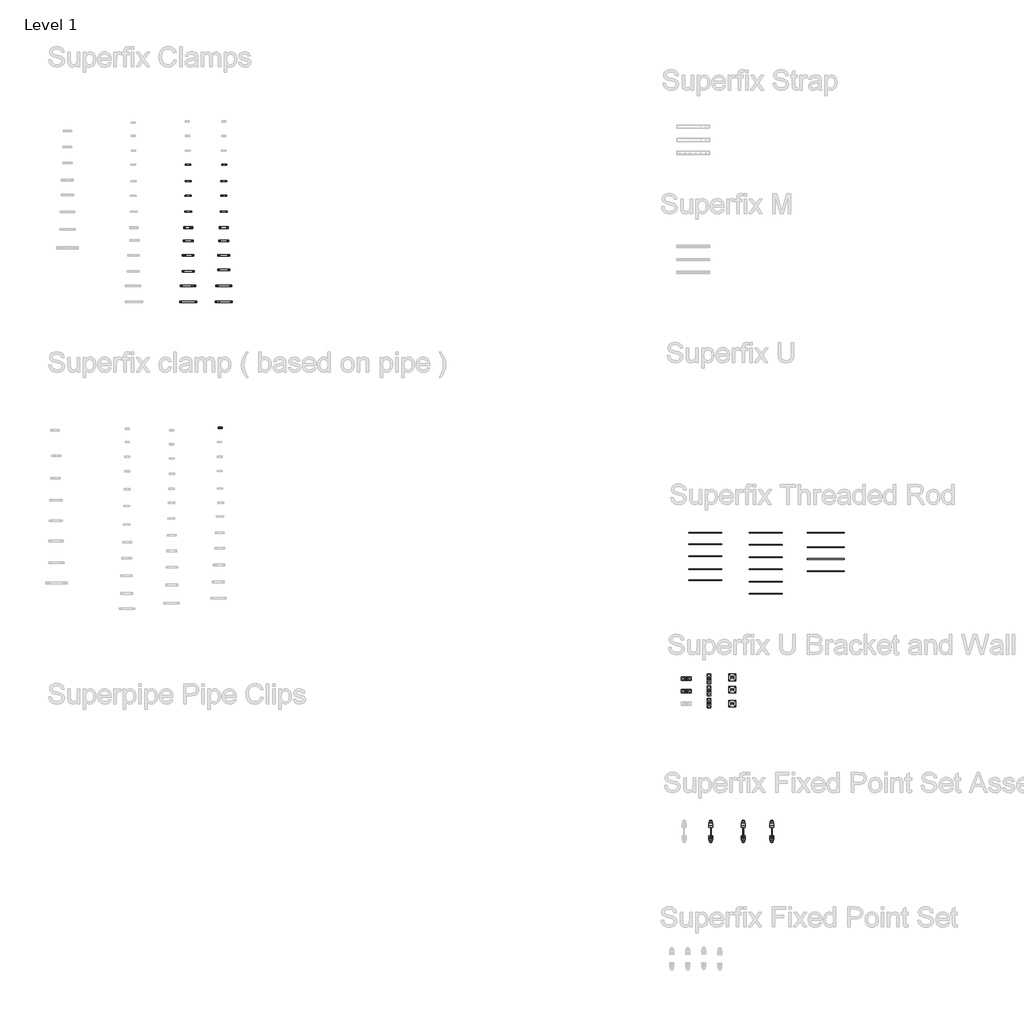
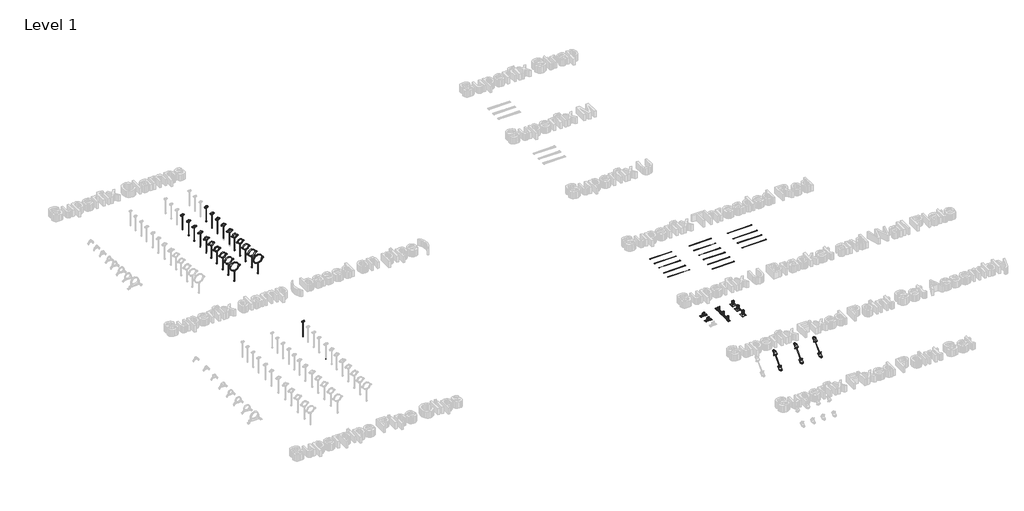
# One storey, part 4 of 32: 139 valves.
"""IFC4 building model written with IfcOpenShell, lengths in millimetres."""

from ifc_helpers import new_model, si_unit, origin, place, context, project, spatial, transform, mapped, element, save
from components import valve_ba4c3353, valve_55d09bba, valve_6bdfb71e, valve_b01fb7c6, valve_0e5aea03, valve_2e221add, valve_6ed2164d, valve_51bf7b5a, valve_25c7dca7, valve_0a1c648b, valve_b5885081, valve_e633c2be, valve_dd110fbf, valve_6b410df3, valve_b4b668c8, valve_86aa1641, valve_9a7a2dc0, valve_91093ba9, valve_35f80758, valve_7b720bf2, valve_71e6190d, valve_fd3ecfd8, valve_156802b2, valve_fad8a5b8, valve_cdfc1e77, valve_9da2c18c, valve_ca0dcec8, valve_44c210af, valve_c34e8304, valve_1d0ad1b5, valve_7fccb85c, valve_540cf7b6, valve_466bc10e, valve_8c9ea742, valve_8ff17196, valve_77f8b98f, valve_923fae52, hexagon_nut_galvanized_extra_m10_fcef541f, hexagon_nut_galvanized_extra_m8_53389388, superfix_u_bracket_h_f60a1122, superfix_u_bracket_v_superfix_u_bracket_v_062b6a46, superfix_u_wall_plate_extra_745f4f27, threaded_rod_used_for_fixed_point_sets_5459f8bc, threaded_rod_used_for_fixed_point_sets_86a65fc8

model = new_model("IFC4")

# Units and contexts
model_context = context("Model", 3, world=origin())
ifc_project = project(units=[si_unit("LENGTHUNIT", "METRE", prefix="MILLI")], contexts=[model_context])

# Site, building, storey
site = spatial("IfcSite", under=ifc_project)
building = spatial("IfcBuilding", under=site)
storey = spatial("IfcBuildingStorey", under=building, Name="Level 1", Elevation=0.0)

# Valves
placement = place(None, origin())
valve_shape = valve_ba4c3353(model_context)
element("IfcValve", 1, ObjectType="Superfix Fixed point set Extra : Superfix Fixed Point Set Extra M8", at=placement, inside=storey, context=model_context, shape_type="MappedRepresentation", body=[
    mapped(valve_shape, transform((-38875.9913156, 17766.6061547, 0.0), x_axis=(1.0, 0.0, 0.0), y_axis=(0.0, 1.0, 0.0), z_axis=(0.0, 0.0, 1.0))),
])
element("IfcValve", 2, ObjectType="Superfix Fixed point set Extra : Superfix Fixed Point Set Extra M10", at=placement, inside=storey, context=model_context, shape_type="MappedRepresentation", body=[
    mapped(valve_shape, transform((-39307.8588086, 17766.6061547, 0.0), x_axis=(1.0, 0.0, 0.0), y_axis=(0.0, 1.0, 0.0), z_axis=(0.0, 0.0, 1.0))),
])
element("IfcValve", 3, ObjectType="Superfix Fixed point set : Superfix Fixed Point Set M10", at=placement, inside=storey, context=model_context, shape_type="MappedRepresentation", body=[
    mapped(valve_shape, transform((-39794.0810476, 17766.6061547, 0.0), x_axis=(1.0, 0.0, 0.0), y_axis=(0.0, 1.0, 0.0), z_axis=(0.0, 0.0, 1.0))),
])
valve_2_shape = valve_55d09bba(model_context)
element("IfcValve", 4, ObjectType="Superfix DG2 Clamp Extra : Superfix DG2 Clamp Extra", at=placement, inside=storey, context=model_context, shape_type="MappedRepresentation", body=[
    mapped(valve_2_shape, transform((-47671.7889153, 27967.8831046, 0.0), x_axis=(0.0, -1.0, 0.0), y_axis=(1.0, 0.0, 0.0), z_axis=(0.0, 0.0, 1.0))),
])
valve_3_shape = valve_6bdfb71e(model_context)
element("IfcValve", 5, ObjectType="Superfix DG2 Clamp Extra : Superfix DG2 Clamp Extra", at=placement, inside=storey, context=model_context, shape_type="MappedRepresentation", body=[
    mapped(valve_3_shape, transform((-47669.2889153, 27720.0778121, 0.0), x_axis=(0.0, -1.0, 0.0), y_axis=(1.0, 0.0, 0.0), z_axis=(0.0, 0.0, 1.0))),
])
valve_4_shape = valve_b01fb7c6(model_context)
element("IfcValve", 6, ObjectType="Superfix DG2 Clamp Extra : Superfix DG2 Clamp Extra", at=placement, inside=storey, context=model_context, shape_type="MappedRepresentation", body=[
    mapped(valve_4_shape, transform((-47669.2889153, 27500.0778121, 0.0), x_axis=(0.0, -1.0, 0.0), y_axis=(1.0, 0.0, 0.0), z_axis=(0.0, 0.0, 1.0))),
])
valve_5_shape = valve_0e5aea03(model_context)
element("IfcValve", 7, ObjectType="Superfix DG2 Clamp Extra : Superfix DG2 Clamp Extra", at=placement, inside=storey, context=model_context, shape_type="MappedRepresentation", body=[
    mapped(valve_5_shape, transform((-47669.2889153, 27260.0778121, 0.0), x_axis=(0.0, -1.0, 0.0), y_axis=(1.0, 0.0, 0.0), z_axis=(0.0, 0.0, 1.0))),
])
valve_6_shape = valve_2e221add(model_context)
element("IfcValve", 8, ObjectType="Superfix Threaded Rod (used for clamps) : Threaded Rod  Extra  - 1000 mm (used for clamps)", at=placement, inside=storey, context=model_context, shape_type="MappedRepresentation", body=[
    mapped(valve_6_shape, transform((-47669.2889153, 27260.0778121, 0.0), x_axis=(0.0, 0.0, 1.0), y_axis=(-1.0, 0.0, 0.0), z_axis=(0.0, -1.0, 0.0))),
])
valve_7_shape = valve_6ed2164d(model_context)
element("IfcValve", 9, ObjectType="Superfix DG2 Clamp Extra : Superfix DG2 Clamp Extra", at=placement, inside=storey, context=model_context, shape_type="MappedRepresentation", body=[
    mapped(valve_7_shape, transform((-47669.2889153, 27020.0778121, 0.0), x_axis=(0.0, -1.0, 0.0), y_axis=(1.0, 0.0, 0.0), z_axis=(0.0, 0.0, 1.0))),
])
valve_8_shape = valve_51bf7b5a(model_context)
element("IfcValve", 10, ObjectType="Superfix Threaded Rod (used for clamps) : Threaded Rod  Extra  - 1000 mm (used for clamps)", at=placement, inside=storey, context=model_context, shape_type="MappedRepresentation", body=[
    mapped(valve_8_shape, transform((-47669.2889153, 27020.0778121, 0.0), x_axis=(0.0, 0.0, 1.0), y_axis=(-1.0, 0.0, 0.0), z_axis=(0.0, -1.0, 0.0))),
])
valve_9_shape = valve_25c7dca7(model_context)
element("IfcValve", 11, ObjectType="Superfix DG2 Clamp Extra : Superfix DG2 Clamp Extra", at=placement, inside=storey, context=model_context, shape_type="MappedRepresentation", body=[
    mapped(valve_9_shape, transform((-47669.2889153, 26820.0778121, 0.0), x_axis=(0.0, -1.0, 0.0), y_axis=(1.0, 0.0, 0.0), z_axis=(0.0, 0.0, 1.0))),
])
valve_10_shape = valve_0a1c648b(model_context)
element("IfcValve", 12, ObjectType="Superfix Threaded Rod (used for clamps) : Threaded Rod  Extra  - 1000 mm (used for clamps)", at=placement, inside=storey, context=model_context, shape_type="MappedRepresentation", body=[
    mapped(valve_10_shape, transform((-47669.2889153, 26820.0778121, 0.0), x_axis=(0.0, 0.0, 1.0), y_axis=(-1.0, 0.0, 0.0), z_axis=(0.0, -1.0, 0.0))),
])
valve_11_shape = valve_b5885081(model_context)
element("IfcValve", 13, ObjectType="Superfix DG2 Clamp Extra : Superfix DG2 Clamp Extra", at=placement, inside=storey, context=model_context, shape_type="MappedRepresentation", body=[
    mapped(valve_11_shape, transform((-47669.2889153, 26600.0778121, 0.0), x_axis=(0.0, -1.0, 0.0), y_axis=(1.0, 0.0, 0.0), z_axis=(0.0, 0.0, 1.0))),
])
valve_12_shape = valve_e633c2be(model_context)
element("IfcValve", 14, ObjectType="Superfix Threaded Rod (used for clamps) : Threaded Rod  Extra  - 1000 mm (used for clamps)", at=placement, inside=storey, context=model_context, shape_type="MappedRepresentation", body=[
    mapped(valve_12_shape, transform((-47669.2889153, 26600.0778121, 0.0), x_axis=(0.0, 0.0, 1.0), y_axis=(-1.0, 0.0, 0.0), z_axis=(0.0, -1.0, 0.0))),
])
valve_13_shape = valve_dd110fbf(model_context)
element("IfcValve", 15, ObjectType="Superfix DG2 Clamp Extra : Superfix DG2 Clamp Extra", at=placement, inside=storey, context=model_context, shape_type="MappedRepresentation", body=[
    mapped(valve_13_shape, transform((-47669.2889153, 26360.0778121, 0.0), x_axis=(0.0, -1.0, 0.0), y_axis=(1.0, 0.0, 0.0), z_axis=(0.0, 0.0, 1.0))),
])
valve_14_shape = valve_6b410df3(model_context)
element("IfcValve", 16, ObjectType="Superfix DG2 Clamp Extra : Superfix DG2 Clamp Extra", at=placement, inside=storey, context=model_context, shape_type="MappedRepresentation", body=[
    mapped(valve_14_shape, transform((-47669.2889153, 26140.0305157, 0.0), x_axis=(0.0, -1.0, 0.0), y_axis=(1.0, 0.0, 0.0), z_axis=(0.0, 0.0, 1.0))),
])
valve_15_shape = valve_b4b668c8(model_context)
element("IfcValve", 17, ObjectType="Superfix DG2 Clamp Extra : Superfix DG2 Clamp Extra", at=placement, inside=storey, context=model_context, shape_type="MappedRepresentation", body=[
    mapped(valve_15_shape, transform((-47669.2889153, 25900.0305157, 0.0), x_axis=(0.0, -1.0, 0.0), y_axis=(1.0, 0.0, 0.0), z_axis=(0.0, 0.0, 1.0))),
])
valve_16_shape = valve_86aa1641(model_context)
element("IfcValve", 18, ObjectType="Superfix DG2 Clamp Extra + : Superfix DG2 Clamp Extra +", at=placement, inside=storey, context=model_context, shape_type="MappedRepresentation", body=[
    mapped(valve_16_shape, transform((-47123.8023141, 27967.8831046, 0.0), x_axis=(0.0, -1.0, 0.0), y_axis=(1.0, 0.0, 0.0), z_axis=(0.0, 0.0, 1.0))),
])
valve_17_shape = valve_9a7a2dc0(model_context)
element("IfcValve", 19, ObjectType="Superfix DG2 Clamp Extra + : Superfix DG2 Clamp Extra +", at=placement, inside=storey, context=model_context, shape_type="MappedRepresentation", body=[
    mapped(valve_17_shape, transform((-47132.8023141, 27720.0778121, 0.0), x_axis=(0.0, -1.0, 0.0), y_axis=(1.0, 0.0, 0.0), z_axis=(0.0, 0.0, 1.0))),
])
valve_18_shape = valve_91093ba9(model_context)
element("IfcValve", 20, ObjectType="Superfix DG2 Clamp Extra + : Superfix DG2 Clamp Extra +", at=placement, inside=storey, context=model_context, shape_type="MappedRepresentation", body=[
    mapped(valve_18_shape, transform((-47132.8023141, 27500.0778121, 0.0), x_axis=(0.0, -1.0, 0.0), y_axis=(1.0, 0.0, 0.0), z_axis=(0.0, 0.0, 1.0))),
])
valve_19_shape = valve_35f80758(model_context)
element("IfcValve", 21, ObjectType="Superfix DG2 Clamp Extra + : Superfix DG2 Clamp Extra +", at=placement, inside=storey, context=model_context, shape_type="MappedRepresentation", body=[
    mapped(valve_19_shape, transform((-47132.8023141, 27260.0778121, 0.0), x_axis=(0.0, -1.0, 0.0), y_axis=(1.0, 0.0, 0.0), z_axis=(0.0, 0.0, 1.0))),
])
element("IfcValve", 22, ObjectType="Superfix Threaded Rod (used for clamps) : Threaded Rod - 1000 mm (used for clamps)", at=placement, inside=storey, context=model_context, shape_type="MappedRepresentation", body=[
    mapped(valve_6_shape, transform((-47132.8023141, 27260.0778121, 0.0), x_axis=(0.0, 0.0, 1.0), y_axis=(-1.0, 0.0, 0.0), z_axis=(0.0, -1.0, 0.0))),
])
element("IfcValve", 23, ObjectType="Superfix DG2 Clamp Extra + : Superfix DG2 Clamp Extra +", at=placement, inside=storey, context=model_context, shape_type="MappedRepresentation", body=[
    mapped(valve_7_shape, transform((-47132.8023141, 27020.0778121, 0.0), x_axis=(0.0, -1.0, 0.0), y_axis=(1.0, 0.0, 0.0), z_axis=(0.0, 0.0, 1.0))),
])
element("IfcValve", 24, ObjectType="Superfix Threaded Rod (used for clamps) : Threaded Rod - 1000 mm (used for clamps)", at=placement, inside=storey, context=model_context, shape_type="MappedRepresentation", body=[
    mapped(valve_8_shape, transform((-47132.8023141, 27020.0778121, 0.0), x_axis=(0.0, 0.0, 1.0), y_axis=(-1.0, 0.0, 0.0), z_axis=(0.0, -1.0, 0.0))),
])
element("IfcValve", 25, ObjectType="Superfix DG2 Clamp Extra + : Superfix DG2 Clamp Extra +", at=placement, inside=storey, context=model_context, shape_type="MappedRepresentation", body=[
    mapped(valve_9_shape, transform((-47132.8023141, 26820.0778121, 0.0), x_axis=(0.0, -1.0, 0.0), y_axis=(1.0, 0.0, 0.0), z_axis=(0.0, 0.0, 1.0))),
])
element("IfcValve", 26, ObjectType="Superfix Threaded Rod (used for clamps) : Threaded Rod - 1000 mm (used for clamps)", at=placement, inside=storey, context=model_context, shape_type="MappedRepresentation", body=[
    mapped(valve_10_shape, transform((-47132.8023141, 26820.0778121, 0.0), x_axis=(0.0, 0.0, 1.0), y_axis=(-1.0, 0.0, 0.0), z_axis=(0.0, -1.0, 0.0))),
])
valve_20_shape = valve_7b720bf2(model_context)
element("IfcValve", 27, ObjectType="Superfix DG2 Clamp Extra + : Superfix DG2 Clamp Extra +", at=placement, inside=storey, context=model_context, shape_type="MappedRepresentation", body=[
    mapped(valve_20_shape, transform((-47132.8023141, 26600.0778121, 0.0), x_axis=(0.0, -1.0, 0.0), y_axis=(1.0, 0.0, 0.0), z_axis=(0.0, 0.0, 1.0))),
])
element("IfcValve", 28, ObjectType="Superfix Threaded Rod (used for clamps) : Threaded Rod - 1000 mm (used for clamps)", at=placement, inside=storey, context=model_context, shape_type="MappedRepresentation", body=[
    mapped(valve_12_shape, transform((-47132.8023141, 26600.0778121, 0.0), x_axis=(0.0, 0.0, 1.0), y_axis=(-1.0, 0.0, 0.0), z_axis=(0.0, -1.0, 0.0))),
])
valve_21_shape = valve_71e6190d(model_context)
element("IfcValve", 29, ObjectType="Superfix DG2 Clamp Extra + : Superfix DG2 Clamp Extra +", at=placement, inside=storey, context=model_context, shape_type="MappedRepresentation", body=[
    mapped(valve_21_shape, transform((-47132.8023141, 26380.0778121, 0.0), x_axis=(0.0, -1.0, 0.0), y_axis=(1.0, 0.0, 0.0), z_axis=(0.0, 0.0, 1.0))),
])
valve_22_shape = valve_fd3ecfd8(model_context)
element("IfcValve", 30, ObjectType="Superfix DG2 Clamp Extra + : Superfix DG2 Clamp Extra +", at=placement, inside=storey, context=model_context, shape_type="MappedRepresentation", body=[
    mapped(valve_22_shape, transform((-47132.8023141, 26140.0778121, 0.0), x_axis=(0.0, -1.0, 0.0), y_axis=(1.0, 0.0, 0.0), z_axis=(0.0, 0.0, 1.0))),
])
element("IfcValve", 31, ObjectType="Superfix DG2 Clamp Extra + : Superfix DG2 Clamp Extra +", at=placement, inside=storey, context=model_context, shape_type="MappedRepresentation", body=[
    mapped(valve_15_shape, transform((-47132.8023141, 25900.0778121, 0.0), x_axis=(0.0, -1.0, 0.0), y_axis=(1.0, 0.0, 0.0), z_axis=(0.0, 0.0, 1.0))),
])
valve_23_shape = valve_156802b2(model_context)
element("IfcValve", 32, ObjectType="Superfix DG2 Clamp Extra + (based on pipe) : Superfix DG2 Clamp Extra + (based on pipe)", at=placement, inside=storey, context=model_context, shape_type="MappedRepresentation", body=[
    mapped(valve_23_shape, transform((-47188.7148877, 24000.0393499, -358.5002332), x_axis=(0.0, -1.0, 0.0), y_axis=(1.0, 0.0, 0.0), z_axis=(0.0, 0.0, 1.0))),
])
valve_24_shape = valve_fad8a5b8(model_context)
element("IfcValve", 33, ObjectType="Superfix Flat Washer : Superfix Flat Washer Extra M8x15x1.5", at=placement, inside=storey, context=model_context, shape_type="MappedRepresentation", body=[
    mapped(valve_24_shape, transform((-47671.7889153, 27967.8831046, 5.0), x_axis=(1.0, 0.0, 0.0), y_axis=(0.0, 1.0, 0.0), z_axis=(0.0, 0.0, 1.0))),
])
element("IfcValve", 34, ObjectType="Superfix Flat Washer : Superfix Flat Washer Extra M8x15x1.5", at=placement, inside=storey, context=model_context, shape_type="MappedRepresentation", body=[
    mapped(valve_24_shape, transform((-47671.7889153, 27967.8831046, -1.6), x_axis=(1.0, 0.0, 0.0), y_axis=(0.0, 1.0, 0.0), z_axis=(0.0, 0.0, 1.0))),
])
element("IfcValve", 35, ObjectType="Superfix Flat Washer : Superfix Flat Washer Extra M8x15x1.5", at=placement, inside=storey, context=model_context, shape_type="MappedRepresentation", body=[
    mapped(valve_24_shape, transform((-47669.2889153, 27720.0778121, 5.0), x_axis=(1.0, 0.0, 0.0), y_axis=(0.0, 1.0, 0.0), z_axis=(0.0, 0.0, 1.0))),
])
element("IfcValve", 36, ObjectType="Superfix Flat Washer : Superfix Flat Washer Extra M8x15x1.5", at=placement, inside=storey, context=model_context, shape_type="MappedRepresentation", body=[
    mapped(valve_24_shape, transform((-47669.2889153, 27720.0778121, -1.6), x_axis=(1.0, 0.0, 0.0), y_axis=(0.0, 1.0, 0.0), z_axis=(0.0, 0.0, 1.0))),
])
element("IfcValve", 37, ObjectType="Superfix Flat Washer : Superfix Flat Washer Extra M8x15x1.5", at=placement, inside=storey, context=model_context, shape_type="MappedRepresentation", body=[
    mapped(valve_24_shape, transform((-47669.2889153, 27500.0778121, 5.0), x_axis=(1.0, 0.0, 0.0), y_axis=(0.0, 1.0, 0.0), z_axis=(0.0, 0.0, 1.0))),
])
element("IfcValve", 38, ObjectType="Superfix Flat Washer : Superfix Flat Washer Extra M8x15x1.5", at=placement, inside=storey, context=model_context, shape_type="MappedRepresentation", body=[
    mapped(valve_24_shape, transform((-47669.2889153, 27500.0778121, -1.6), x_axis=(1.0, 0.0, 0.0), y_axis=(0.0, 1.0, 0.0), z_axis=(0.0, 0.0, 1.0))),
])
valve_25_shape = valve_cdfc1e77(model_context)
element("IfcValve", 39, ObjectType="Superfix Flat Washer : Superfix Flat Washer EXtra M10x20x1.5", at=placement, inside=storey, context=model_context, shape_type="MappedRepresentation", body=[
    mapped(valve_25_shape, transform((-47669.2889153, 26820.0778121, 5.0), x_axis=(1.0, 0.0, 0.0), y_axis=(0.0, 1.0, 0.0), z_axis=(0.0, 0.0, 1.0))),
])
element("IfcValve", 40, ObjectType="Superfix Flat Washer : Superfix Flat Washer EXtra M10x20x1.5", at=placement, inside=storey, context=model_context, shape_type="MappedRepresentation", body=[
    mapped(valve_25_shape, transform((-47669.2889153, 26820.0778121, -2.0), x_axis=(1.0, 0.0, 0.0), y_axis=(0.0, 1.0, 0.0), z_axis=(0.0, 0.0, 1.0))),
])
element("IfcValve", 41, ObjectType="Superfix Flat Washer : Superfix Flat Washer EXtra M10x20x1.5", at=placement, inside=storey, context=model_context, shape_type="MappedRepresentation", body=[
    mapped(valve_25_shape, transform((-47669.2889153, 26600.0778121, 5.0), x_axis=(1.0, 0.0, 0.0), y_axis=(0.0, 1.0, 0.0), z_axis=(0.0, 0.0, 1.0))),
])
element("IfcValve", 42, ObjectType="Superfix Flat Washer : Superfix Flat Washer EXtra M10x20x1.5", at=placement, inside=storey, context=model_context, shape_type="MappedRepresentation", body=[
    mapped(valve_25_shape, transform((-47669.2889153, 26600.0778121, -2.0), x_axis=(1.0, 0.0, 0.0), y_axis=(0.0, 1.0, 0.0), z_axis=(0.0, 0.0, 1.0))),
])
element("IfcValve", 43, ObjectType="Superfix Flat Washer : Superfix Flat Washer EXtra M10x20x1.5", at=placement, inside=storey, context=model_context, shape_type="MappedRepresentation", body=[
    mapped(valve_25_shape, transform((-47669.2889153, 26360.0778121, 5.0), x_axis=(1.0, 0.0, 0.0), y_axis=(0.0, 1.0, 0.0), z_axis=(0.0, 0.0, 1.0))),
])
element("IfcValve", 44, ObjectType="Superfix Flat Washer : Superfix Flat Washer EXtra M10x20x1.5", at=placement, inside=storey, context=model_context, shape_type="MappedRepresentation", body=[
    mapped(valve_25_shape, transform((-47669.2889153, 26360.0778121, -2.0), x_axis=(1.0, 0.0, 0.0), y_axis=(0.0, 1.0, 0.0), z_axis=(0.0, 0.0, 1.0))),
])
element("IfcValve", 45, ObjectType="Superfix Flat Washer : Superfix Flat Washer EXtra M10x20x1.5", at=placement, inside=storey, context=model_context, shape_type="MappedRepresentation", body=[
    mapped(valve_25_shape, transform((-47669.2889153, 26140.0305157, 5.0), x_axis=(1.0, 0.0, 0.0), y_axis=(0.0, 1.0, 0.0), z_axis=(0.0, 0.0, 1.0))),
])
element("IfcValve", 46, ObjectType="Superfix Flat Washer : Superfix Flat Washer EXtra M10x20x1.5", at=placement, inside=storey, context=model_context, shape_type="MappedRepresentation", body=[
    mapped(valve_25_shape, transform((-47669.2889153, 26140.0305157, -2.0), x_axis=(1.0, 0.0, 0.0), y_axis=(0.0, 1.0, 0.0), z_axis=(0.0, 0.0, 1.0))),
])
element("IfcValve", 47, ObjectType="Superfix Flat Washer : Superfix Flat Washer EXtra M10x20x1.5", at=placement, inside=storey, context=model_context, shape_type="MappedRepresentation", body=[
    mapped(valve_25_shape, transform((-47669.2889153, 25900.0305157, 5.0), x_axis=(1.0, 0.0, 0.0), y_axis=(0.0, 1.0, 0.0), z_axis=(0.0, 0.0, 1.0))),
])
element("IfcValve", 48, ObjectType="Superfix Flat Washer : Superfix Flat Washer EXtra M10x20x1.5", at=placement, inside=storey, context=model_context, shape_type="MappedRepresentation", body=[
    mapped(valve_25_shape, transform((-47669.2889153, 25900.0305157, -2.0), x_axis=(1.0, 0.0, 0.0), y_axis=(0.0, 1.0, 0.0), z_axis=(0.0, 0.0, 1.0))),
])
element("IfcValve", 49, ObjectType="Superfix Flat Washer : Superfix Flat Washer Extra +  M8x15x1.5", at=placement, inside=storey, context=model_context, shape_type="MappedRepresentation", body=[
    mapped(valve_24_shape, transform((-47123.8023141, 27967.8831046, -1.6), x_axis=(1.0, 0.0, 0.0), y_axis=(0.0, 1.0, 0.0), z_axis=(0.0, 0.0, 1.0))),
])
element("IfcValve", 50, ObjectType="Superfix Flat Washer : Superfix Flat Washer Extra +  M8x15x1.5", at=placement, inside=storey, context=model_context, shape_type="MappedRepresentation", body=[
    mapped(valve_24_shape, transform((-47123.8023141, 27967.8831046, 5.0), x_axis=(1.0, 0.0, 0.0), y_axis=(0.0, 1.0, 0.0), z_axis=(0.0, 0.0, 1.0))),
])
element("IfcValve", 51, ObjectType="Superfix Flat Washer : Superfix Flat Washer Extra +  M8x15x1.5", at=placement, inside=storey, context=model_context, shape_type="MappedRepresentation", body=[
    mapped(valve_24_shape, transform((-47132.8023141, 27720.0778121, -1.6), x_axis=(1.0, 0.0, 0.0), y_axis=(0.0, 1.0, 0.0), z_axis=(0.0, 0.0, 1.0))),
])
element("IfcValve", 52, ObjectType="Superfix Flat Washer : Superfix Flat Washer Extra +  M8x15x1.5", at=placement, inside=storey, context=model_context, shape_type="MappedRepresentation", body=[
    mapped(valve_24_shape, transform((-47132.8023141, 27720.0778121, 5.0), x_axis=(1.0, 0.0, 0.0), y_axis=(0.0, 1.0, 0.0), z_axis=(0.0, 0.0, 1.0))),
])
element("IfcValve", 53, ObjectType="Superfix Flat Washer : Superfix Flat Washer Extra +  M8x15x1.5", at=placement, inside=storey, context=model_context, shape_type="MappedRepresentation", body=[
    mapped(valve_24_shape, transform((-47188.7148877, 24000.0393499, -360.1002332), x_axis=(1.0, 0.0, 0.0), y_axis=(0.0, 1.0, 0.0), z_axis=(0.0, 0.0, 1.0))),
])
element("IfcValve", 54, ObjectType="Superfix Flat Washer : Superfix Flat Washer Extra +  M8x15x1.5", at=placement, inside=storey, context=model_context, shape_type="MappedRepresentation", body=[
    mapped(valve_24_shape, transform((-47188.7148877, 24000.0393499, -353.5002332), x_axis=(1.0, 0.0, 0.0), y_axis=(0.0, 1.0, 0.0), z_axis=(0.0, 0.0, 1.0))),
])
element("IfcValve", 55, ObjectType="Superfix Flat Washer : Superfix Flat Washer Extra +  M8x15x1.5", at=placement, inside=storey, context=model_context, shape_type="MappedRepresentation", body=[
    mapped(valve_24_shape, transform((-47188.7148877, 23087.5591065, -360.1002332), x_axis=(1.0, 0.0, 0.0), y_axis=(0.0, 1.0, 0.0), z_axis=(0.0, 0.0, 1.0))),
])
element("IfcValve", 56, ObjectType="Superfix Flat Washer : Superfix Flat Washer Extra +  M8x15x1.5", at=placement, inside=storey, context=model_context, shape_type="MappedRepresentation", body=[
    mapped(valve_24_shape, transform((-47188.7148877, 23087.5591065, -353.5002332), x_axis=(1.0, 0.0, 0.0), y_axis=(0.0, 1.0, 0.0), z_axis=(0.0, 0.0, 1.0))),
])
element("IfcValve", 57, ObjectType="Superfix Flat Washer : Superfix Flat Washer EXtra +  M10x20x1.5", at=placement, inside=storey, context=model_context, shape_type="MappedRepresentation", body=[
    mapped(valve_25_shape, transform((-47132.8023141, 26820.0778121, -2.0), x_axis=(1.0, 0.0, 0.0), y_axis=(0.0, 1.0, 0.0), z_axis=(0.0, 0.0, 1.0))),
])
element("IfcValve", 58, ObjectType="Superfix Flat Washer : Superfix Flat Washer EXtra +  M10x20x1.5", at=placement, inside=storey, context=model_context, shape_type="MappedRepresentation", body=[
    mapped(valve_25_shape, transform((-47132.8023141, 26820.0778121, 5.0), x_axis=(1.0, 0.0, 0.0), y_axis=(0.0, 1.0, 0.0), z_axis=(0.0, 0.0, 1.0))),
])
element("IfcValve", 59, ObjectType="Superfix Flat Washer : Superfix Flat Washer EXtra +  M10x20x1.5", at=placement, inside=storey, context=model_context, shape_type="MappedRepresentation", body=[
    mapped(valve_25_shape, transform((-47132.8023141, 26600.0778121, -2.0), x_axis=(1.0, 0.0, 0.0), y_axis=(0.0, 1.0, 0.0), z_axis=(0.0, 0.0, 1.0))),
])
element("IfcValve", 60, ObjectType="Superfix Flat Washer : Superfix Flat Washer EXtra +  M10x20x1.5", at=placement, inside=storey, context=model_context, shape_type="MappedRepresentation", body=[
    mapped(valve_25_shape, transform((-47132.8023141, 26600.0778121, 5.0), x_axis=(1.0, 0.0, 0.0), y_axis=(0.0, 1.0, 0.0), z_axis=(0.0, 0.0, 1.0))),
])
element("IfcValve", 61, ObjectType="Superfix Flat Washer : Superfix Flat Washer EXtra +  M10x20x1.5", at=placement, inside=storey, context=model_context, shape_type="MappedRepresentation", body=[
    mapped(valve_25_shape, transform((-47132.8023141, 26380.0778121, -2.0), x_axis=(1.0, 0.0, 0.0), y_axis=(0.0, 1.0, 0.0), z_axis=(0.0, 0.0, 1.0))),
])
element("IfcValve", 62, ObjectType="Superfix Flat Washer : Superfix Flat Washer EXtra +  M10x20x1.5", at=placement, inside=storey, context=model_context, shape_type="MappedRepresentation", body=[
    mapped(valve_25_shape, transform((-47132.8023141, 26380.0778121, 5.0), x_axis=(1.0, 0.0, 0.0), y_axis=(0.0, 1.0, 0.0), z_axis=(0.0, 0.0, 1.0))),
])
element("IfcValve", 63, ObjectType="Superfix Flat Washer : Superfix Flat Washer EXtra +  M10x20x1.5", at=placement, inside=storey, context=model_context, shape_type="MappedRepresentation", body=[
    mapped(valve_25_shape, transform((-47132.8023141, 26140.0778121, -2.0), x_axis=(1.0, 0.0, 0.0), y_axis=(0.0, 1.0, 0.0), z_axis=(0.0, 0.0, 1.0))),
])
element("IfcValve", 64, ObjectType="Superfix Flat Washer : Superfix Flat Washer EXtra +  M10x20x1.5", at=placement, inside=storey, context=model_context, shape_type="MappedRepresentation", body=[
    mapped(valve_25_shape, transform((-47132.8023141, 26140.0778121, 5.0), x_axis=(1.0, 0.0, 0.0), y_axis=(0.0, 1.0, 0.0), z_axis=(0.0, 0.0, 1.0))),
])
element("IfcValve", 65, ObjectType="Superfix Flat Washer : Superfix Flat Washer EXtra +  M10x20x1.5", at=placement, inside=storey, context=model_context, shape_type="MappedRepresentation", body=[
    mapped(valve_25_shape, transform((-47132.8023141, 25900.0778121, -2.0), x_axis=(1.0, 0.0, 0.0), y_axis=(0.0, 1.0, 0.0), z_axis=(0.0, 0.0, 1.0))),
])
element("IfcValve", 66, ObjectType="Superfix Flat Washer : Superfix Flat Washer EXtra +  M10x20x1.5", at=placement, inside=storey, context=model_context, shape_type="MappedRepresentation", body=[
    mapped(valve_25_shape, transform((-47132.8023141, 25900.0778121, 5.0), x_axis=(1.0, 0.0, 0.0), y_axis=(0.0, 1.0, 0.0), z_axis=(0.0, 0.0, 1.0))),
])
valve_26_shape = valve_9da2c18c(model_context)
element("IfcValve", 67, ObjectType="Superfix Threaded Rod (used for clamps) : Threaded Rod  Extra  - 1000 mm (used for clamps)", at=placement, inside=storey, context=model_context, shape_type="MappedRepresentation", body=[
    mapped(valve_26_shape, transform((-47671.7889153, 27967.8831046, 0.0), x_axis=(0.0, 0.0, 1.0), y_axis=(-1.0, 0.0, 0.0), z_axis=(0.0, -1.0, 0.0))),
])
valve_27_shape = valve_ca0dcec8(model_context)
element("IfcValve", 68, ObjectType="Superfix Threaded Rod (used for clamps) : Threaded Rod  Extra  - 1000 mm (used for clamps)", at=placement, inside=storey, context=model_context, shape_type="MappedRepresentation", body=[
    mapped(valve_27_shape, transform((-47669.2889153, 27720.0778121, 0.0), x_axis=(0.0, 0.0, 1.0), y_axis=(-1.0, 0.0, 0.0), z_axis=(0.0, -1.0, 0.0))),
])
valve_28_shape = valve_44c210af(model_context)
element("IfcValve", 69, ObjectType="Superfix Threaded Rod (used for clamps) : Threaded Rod  Extra  - 1000 mm (used for clamps)", at=placement, inside=storey, context=model_context, shape_type="MappedRepresentation", body=[
    mapped(valve_28_shape, transform((-47669.2889153, 27500.0778121, 0.0), x_axis=(0.0, 0.0, 1.0), y_axis=(-1.0, 0.0, 0.0), z_axis=(0.0, -1.0, 0.0))),
])
valve_29_shape = valve_c34e8304(model_context)
element("IfcValve", 70, ObjectType="Superfix Threaded Rod (used for clamps) : Threaded Rod  Extra  - 1000 mm (used for clamps)", at=placement, inside=storey, context=model_context, shape_type="MappedRepresentation", body=[
    mapped(valve_29_shape, transform((-47669.2889153, 26360.0778121, 0.0), x_axis=(0.0, 0.0, 1.0), y_axis=(-1.0, 0.0, 0.0), z_axis=(0.0, -1.0, 0.0))),
])
valve_30_shape = valve_1d0ad1b5(model_context)
element("IfcValve", 71, ObjectType="Superfix Threaded Rod (used for clamps) : Threaded Rod  Extra  - 1000 mm (used for clamps)", at=placement, inside=storey, context=model_context, shape_type="MappedRepresentation", body=[
    mapped(valve_30_shape, transform((-47669.2889153, 26140.0305157, 0.0), x_axis=(0.0, 0.0, 1.0), y_axis=(-1.0, 0.0, 0.0), z_axis=(0.0, -1.0, 0.0))),
])
element("IfcValve", 72, ObjectType="Superfix Threaded Rod (used for clamps) : Threaded Rod - 1000 mm (used for clamps)", at=placement, inside=storey, context=model_context, shape_type="MappedRepresentation", body=[
    mapped(valve_26_shape, transform((-47123.8023141, 27967.8831046, 0.0), x_axis=(0.0, 0.0, 1.0), y_axis=(-1.0, 0.0, 0.0), z_axis=(0.0, -1.0, 0.0))),
])
element("IfcValve", 73, ObjectType="Superfix Threaded Rod (used for clamps) : Threaded Rod - 1000 mm (used for clamps)", at=placement, inside=storey, context=model_context, shape_type="MappedRepresentation", body=[
    mapped(valve_27_shape, transform((-47132.8023141, 27720.0778121, 0.0), x_axis=(0.0, 0.0, 1.0), y_axis=(-1.0, 0.0, 0.0), z_axis=(0.0, -1.0, 0.0))),
])
element("IfcValve", 74, ObjectType="Superfix Threaded Rod (used for clamps) : Threaded Rod - 1000 mm (used for clamps)", at=placement, inside=storey, context=model_context, shape_type="MappedRepresentation", body=[
    mapped(valve_28_shape, transform((-47132.8023141, 27500.0778121, 0.0), x_axis=(0.0, 0.0, 1.0), y_axis=(-1.0, 0.0, 0.0), z_axis=(0.0, -1.0, 0.0))),
])
element("IfcValve", 75, ObjectType="Superfix Threaded Rod (used for clamps) : Threaded Rod - 1000 mm (used for clamps)", at=placement, inside=storey, context=model_context, shape_type="MappedRepresentation", body=[
    mapped(valve_29_shape, transform((-47132.8023141, 26380.0778121, 0.0), x_axis=(0.0, 0.0, 1.0), y_axis=(-1.0, 0.0, 0.0), z_axis=(0.0, -1.0, 0.0))),
])
element("IfcValve", 76, ObjectType="Superfix Threaded Rod (used for clamps) : Threaded Rod - 1000 mm (used for clamps)", at=placement, inside=storey, context=model_context, shape_type="MappedRepresentation", body=[
    mapped(valve_30_shape, transform((-47132.8023141, 26140.0778121, 0.0), x_axis=(0.0, 0.0, 1.0), y_axis=(-1.0, 0.0, 0.0), z_axis=(0.0, -1.0, 0.0))),
])
valve_31_shape = valve_7fccb85c(model_context)
element("IfcValve", 77, ObjectType="Superfix Threaded Rod (used for clamps) : Threaded Rod  Extra  - 1000 mm (used for clamps)", at=placement, inside=storey, context=model_context, shape_type="MappedRepresentation", body=[
    mapped(valve_31_shape, transform((-47669.2889153, 25900.0305157, 0.0), x_axis=(0.0, 0.0, 1.0), y_axis=(-1.0, 0.0, 0.0), z_axis=(0.0, -1.0, 0.0))),
])
element("IfcValve", 78, ObjectType="Superfix Threaded Rod (used for clamps) : Threaded Rod - 1000 mm (used for clamps)", at=placement, inside=storey, context=model_context, shape_type="MappedRepresentation", body=[
    mapped(valve_31_shape, transform((-47132.8023141, 25900.0778121, 0.0), x_axis=(0.0, 0.0, 1.0), y_axis=(-1.0, 0.0, 0.0), z_axis=(0.0, -1.0, 0.0))),
])
valve_32_shape = valve_540cf7b6(model_context)
element("IfcValve", 79, ObjectType="Superfix Threaded Rod (used for clamps) : Threaded Rod - 1000 mm (used for clamps)", at=placement, inside=storey, context=model_context, shape_type="MappedRepresentation", body=[
    mapped(valve_32_shape, transform((-47188.7148877, 24000.0393499, -358.5002332), x_axis=(0.0, 0.0, 1.0), y_axis=(-1.0, 0.0, 0.0), z_axis=(0.0, -1.0, 0.0))),
])
valve_33_shape = valve_466bc10e(model_context)
element("IfcValve", 80, ObjectType="SuperFix U Wall Plate  : SuperFix U Wall Plate ", at=placement, inside=storey, context=model_context, shape_type="MappedRepresentation", body=[
    mapped(valve_33_shape, transform((-39473.3064596, 20254.2900645, -21.9566268), x_axis=(0.0, 0.0, -1.0), y_axis=(1.0, 0.0, 0.0), z_axis=(0.0, -1.0, 0.0))),
])
valve_34_shape = valve_8c9ea742(model_context)
element("IfcValve", 81, ObjectType="Superfix Threaded Rod : Threaded Rod  Extra-  M8 x 100", at=placement, inside=storey, context=model_context, shape_type="MappedRepresentation", body=[
    mapped(valve_34_shape, transform((-39220.1068926, 22424.0510574, 0.0), x_axis=(1.0, 0.0, 0.0), y_axis=(0.0, 1.0, 0.0), z_axis=(0.0, 0.0, 1.0))),
])
element("IfcValve", 82, ObjectType="Superfix Threaded Rod : Threaded Rod  Extra-  M8 x 1000", at=placement, inside=storey, context=model_context, shape_type="MappedRepresentation", body=[
    mapped(valve_34_shape, transform((-39220.1068926, 22239.0510574, 0.0), x_axis=(1.0, 0.0, 0.0), y_axis=(0.0, 1.0, 0.0), z_axis=(0.0, 0.0, 1.0))),
])
element("IfcValve", 83, ObjectType="Superfix Threaded Rod : Threaded Rod  Extra-  M8 x 2000", at=placement, inside=storey, context=model_context, shape_type="MappedRepresentation", body=[
    mapped(valve_34_shape, transform((-39220.1068926, 22049.0510574, 0.0), x_axis=(1.0, 0.0, 0.0), y_axis=(0.0, 1.0, 0.0), z_axis=(0.0, 0.0, 1.0))),
])
valve_35_shape = valve_8ff17196(model_context)
element("IfcValve", 84, ObjectType="Superfix Threaded Rod : Threaded Rod  Extra-  M10 x 100", at=placement, inside=storey, context=model_context, shape_type="MappedRepresentation", body=[
    mapped(valve_35_shape, transform((-39220.1068926, 21869.0510574, 0.0), x_axis=(1.0, 0.0, 0.0), y_axis=(0.0, 1.0, 0.0), z_axis=(0.0, 0.0, 1.0))),
])
element("IfcValve", 85, ObjectType="Superfix Threaded Rod : Threaded Rod  Extra-  M10 x 1000", at=placement, inside=storey, context=model_context, shape_type="MappedRepresentation", body=[
    mapped(valve_35_shape, transform((-39220.1068926, 21684.0510574, 0.0), x_axis=(1.0, 0.0, 0.0), y_axis=(0.0, 1.0, 0.0), z_axis=(0.0, 0.0, 1.0))),
])
element("IfcValve", 86, ObjectType="Superfix Threaded Rod : Threaded Rod  Extra-  M10 x 2000", at=placement, inside=storey, context=model_context, shape_type="MappedRepresentation", body=[
    mapped(valve_35_shape, transform((-39220.1068926, 21504.0510574, 0.0), x_axis=(1.0, 0.0, 0.0), y_axis=(0.0, 1.0, 0.0), z_axis=(0.0, 0.0, 1.0))),
])
valve_36_shape = valve_77f8b98f(model_context)
element("IfcValve", 87, ObjectType="Superfix Threaded Rod : Threaded Rod  Extra + -  M8 x 100", at=placement, inside=storey, context=model_context, shape_type="MappedRepresentation", body=[
    mapped(valve_36_shape, transform((-38342.6089442, 22424.0510574, 0.0), x_axis=(1.0, 0.0, 0.0), y_axis=(0.0, 1.0, 0.0), z_axis=(0.0, 0.0, 1.0))),
])
element("IfcValve", 88, ObjectType="Superfix Threaded Rod : Threaded Rod  Extra + -  M8 x 1000", at=placement, inside=storey, context=model_context, shape_type="MappedRepresentation", body=[
    mapped(valve_36_shape, transform((-38342.6089442, 22204.0510574, 0.0), x_axis=(1.0, 0.0, 0.0), y_axis=(0.0, 1.0, 0.0), z_axis=(0.0, 0.0, 1.0))),
])
valve_37_shape = valve_923fae52(model_context)
element("IfcValve", 89, ObjectType="Superfix Threaded Rod : Threaded Rod  Extra + -  M10 x 100", at=placement, inside=storey, context=model_context, shape_type="MappedRepresentation", body=[
    mapped(valve_37_shape, transform((-38342.6089442, 22024.0510574, 0.0), x_axis=(1.0, 0.0, 0.0), y_axis=(0.0, 1.0, 0.0), z_axis=(0.0, 0.0, 1.0))),
])
element("IfcValve", 90, ObjectType="Superfix Threaded Rod : Threaded Rod  Extra + -  M10 x 1000", at=placement, inside=storey, context=model_context, shape_type="MappedRepresentation", body=[
    mapped(valve_36_shape, transform((-38342.6089442, 21844.0510574, 0.0), x_axis=(1.0, 0.0, 0.0), y_axis=(0.0, 1.0, 0.0), z_axis=(0.0, 0.0, 1.0))),
])
hexagon_nut_galvanized_extra_m10_shape = hexagon_nut_galvanized_extra_m10_fcef541f(model_context)
element("IfcValve", 91, ObjectType="Superfix Hexagon Nut Galvanized : Hexagon Nut Galvanized Extra + M10", at=placement, inside=storey, context=model_context, shape_type="MappedRepresentation", body=[
    mapped(hexagon_nut_galvanized_extra_m10_shape, transform((-47132.8023141, 26820.0778121, 0.0), x_axis=(0.0, -1.0, 0.0), y_axis=(-1.0, 0.0, 0.0), z_axis=(0.0, 0.0, -1.0))),
])
element("IfcValve", 92, ObjectType="Superfix Hexagon Nut Galvanized : Hexagon Nut Galvanized Extra + M10", at=placement, inside=storey, context=model_context, shape_type="MappedRepresentation", body=[
    mapped(hexagon_nut_galvanized_extra_m10_shape, transform((-47132.8023141, 26820.0778121, 5.0), x_axis=(0.0, -1.0, 0.0), y_axis=(1.0, 0.0, 0.0), z_axis=(0.0, 0.0, 1.0))),
])
element("IfcValve", 93, ObjectType="Superfix Hexagon Nut Galvanized : Hexagon Nut Galvanized Extra + M10", at=placement, inside=storey, context=model_context, shape_type="MappedRepresentation", body=[
    mapped(hexagon_nut_galvanized_extra_m10_shape, transform((-47132.8023141, 26600.0778121, 0.0), x_axis=(0.0, -1.0, 0.0), y_axis=(-1.0, 0.0, 0.0), z_axis=(0.0, 0.0, -1.0))),
])
element("IfcValve", 94, ObjectType="Superfix Hexagon Nut Galvanized : Hexagon Nut Galvanized Extra + M10", at=placement, inside=storey, context=model_context, shape_type="MappedRepresentation", body=[
    mapped(hexagon_nut_galvanized_extra_m10_shape, transform((-47132.8023141, 26600.0778121, 5.0), x_axis=(0.0, -1.0, 0.0), y_axis=(1.0, 0.0, 0.0), z_axis=(0.0, 0.0, 1.0))),
])
element("IfcValve", 95, ObjectType="Superfix Hexagon Nut Galvanized : Hexagon Nut Galvanized Extra + M10", at=placement, inside=storey, context=model_context, shape_type="MappedRepresentation", body=[
    mapped(hexagon_nut_galvanized_extra_m10_shape, transform((-47132.8023141, 26380.0778121, 0.0), x_axis=(0.0, -1.0, 0.0), y_axis=(-1.0, 0.0, 0.0), z_axis=(0.0, 0.0, -1.0))),
])
element("IfcValve", 96, ObjectType="Superfix Hexagon Nut Galvanized : Hexagon Nut Galvanized Extra + M10", at=placement, inside=storey, context=model_context, shape_type="MappedRepresentation", body=[
    mapped(hexagon_nut_galvanized_extra_m10_shape, transform((-47132.8023141, 26380.0778121, 5.0), x_axis=(0.0, -1.0, 0.0), y_axis=(1.0, 0.0, 0.0), z_axis=(0.0, 0.0, 1.0))),
])
element("IfcValve", 97, ObjectType="Superfix Hexagon Nut Galvanized : Hexagon Nut Galvanized Extra + M10", at=placement, inside=storey, context=model_context, shape_type="MappedRepresentation", body=[
    mapped(hexagon_nut_galvanized_extra_m10_shape, transform((-47132.8023141, 26140.0778121, 0.0), x_axis=(0.0, -1.0, 0.0), y_axis=(-1.0, 0.0, 0.0), z_axis=(0.0, 0.0, -1.0))),
])
element("IfcValve", 98, ObjectType="Superfix Hexagon Nut Galvanized : Hexagon Nut Galvanized Extra + M10", at=placement, inside=storey, context=model_context, shape_type="MappedRepresentation", body=[
    mapped(hexagon_nut_galvanized_extra_m10_shape, transform((-47132.8023141, 26140.0778121, 5.0), x_axis=(0.0, -1.0, 0.0), y_axis=(1.0, 0.0, 0.0), z_axis=(0.0, 0.0, 1.0))),
])
element("IfcValve", 99, ObjectType="Superfix Hexagon Nut Galvanized : Hexagon Nut Galvanized Extra + M10", at=placement, inside=storey, context=model_context, shape_type="MappedRepresentation", body=[
    mapped(hexagon_nut_galvanized_extra_m10_shape, transform((-47132.8023141, 25900.0778121, 0.0), x_axis=(0.0, -1.0, 0.0), y_axis=(-1.0, 0.0, 0.0), z_axis=(0.0, 0.0, -1.0))),
])
element("IfcValve", 100, ObjectType="Superfix Hexagon Nut Galvanized : Hexagon Nut Galvanized Extra + M10", at=placement, inside=storey, context=model_context, shape_type="MappedRepresentation", body=[
    mapped(hexagon_nut_galvanized_extra_m10_shape, transform((-47132.8023141, 25900.0778121, 5.0), x_axis=(0.0, -1.0, 0.0), y_axis=(1.0, 0.0, 0.0), z_axis=(0.0, 0.0, 1.0))),
])
hexagon_nut_galvanized_extra_m8_shape = hexagon_nut_galvanized_extra_m8_53389388(model_context)
element("IfcValve", 101, ObjectType="Superfix Hexagon Nut Galvanized : Hexagon Nut Galvanized Extra +M8", at=placement, inside=storey, context=model_context, shape_type="MappedRepresentation", body=[
    mapped(hexagon_nut_galvanized_extra_m8_shape, transform((-47123.8023141, 27967.8831046, 0.0), x_axis=(0.0, -1.0, 0.0), y_axis=(-1.0, 0.0, 0.0), z_axis=(0.0, 0.0, -1.0))),
])
element("IfcValve", 102, ObjectType="Superfix Hexagon Nut Galvanized : Hexagon Nut Galvanized Extra +M8", at=placement, inside=storey, context=model_context, shape_type="MappedRepresentation", body=[
    mapped(hexagon_nut_galvanized_extra_m8_shape, transform((-47123.8023141, 27967.8831046, 5.0), x_axis=(0.0, -1.0, 0.0), y_axis=(1.0, 0.0, 0.0), z_axis=(0.0, 0.0, 1.0))),
])
element("IfcValve", 103, ObjectType="Superfix Hexagon Nut Galvanized : Hexagon Nut Galvanized Extra +M8", at=placement, inside=storey, context=model_context, shape_type="MappedRepresentation", body=[
    mapped(hexagon_nut_galvanized_extra_m8_shape, transform((-47132.8023141, 27720.0778121, 0.0), x_axis=(0.0, -1.0, 0.0), y_axis=(-1.0, 0.0, 0.0), z_axis=(0.0, 0.0, -1.0))),
])
element("IfcValve", 104, ObjectType="Superfix Hexagon Nut Galvanized : Hexagon Nut Galvanized Extra +M8", at=placement, inside=storey, context=model_context, shape_type="MappedRepresentation", body=[
    mapped(hexagon_nut_galvanized_extra_m8_shape, transform((-47132.8023141, 27720.0778121, 5.0), x_axis=(0.0, -1.0, 0.0), y_axis=(1.0, 0.0, 0.0), z_axis=(0.0, 0.0, 1.0))),
])
element("IfcValve", 105, ObjectType="Superfix Hexagon Nut Galvanized : Hexagon Nut Galvanized Extra +M8", at=placement, inside=storey, context=model_context, shape_type="MappedRepresentation", body=[
    mapped(hexagon_nut_galvanized_extra_m8_shape, transform((-47132.8023141, 27500.0778121, 0.0), x_axis=(0.0, -1.0, 0.0), y_axis=(-1.0, 0.0, 0.0), z_axis=(0.0, 0.0, -1.0))),
])
element("IfcValve", 106, ObjectType="Superfix Hexagon Nut Galvanized : Hexagon Nut Galvanized Extra +M8", at=placement, inside=storey, context=model_context, shape_type="MappedRepresentation", body=[
    mapped(hexagon_nut_galvanized_extra_m8_shape, transform((-47132.8023141, 27500.0778121, 5.0), x_axis=(0.0, -1.0, 0.0), y_axis=(1.0, 0.0, 0.0), z_axis=(0.0, 0.0, 1.0))),
])
element("IfcValve", 107, ObjectType="Superfix Hexagon Nut Galvanized : Hexagon Nut Galvanized Extra +M8", at=placement, inside=storey, context=model_context, shape_type="MappedRepresentation", body=[
    mapped(hexagon_nut_galvanized_extra_m8_shape, transform((-47188.7148877, 24000.0393499, -358.5002332), x_axis=(0.0, -1.0, 0.0), y_axis=(-1.0, 0.0, 0.0), z_axis=(0.0, 0.0, -1.0))),
])
element("IfcValve", 108, ObjectType="Superfix Hexagon Nut Galvanized : Hexagon Nut Galvanized Extra +M8", at=placement, inside=storey, context=model_context, shape_type="MappedRepresentation", body=[
    mapped(hexagon_nut_galvanized_extra_m8_shape, transform((-47188.7148877, 24000.0393499, -353.5002332), x_axis=(0.0, -1.0, 0.0), y_axis=(1.0, 0.0, 0.0), z_axis=(0.0, 0.0, 1.0))),
])
element("IfcValve", 109, ObjectType="Superfix Hexagon Nut Galvanized : Hexagon Nut Galvanized Extra M10", at=placement, inside=storey, context=model_context, shape_type="MappedRepresentation", body=[
    mapped(hexagon_nut_galvanized_extra_m10_shape, transform((-47669.2889153, 26820.0778121, 0.0), x_axis=(0.0, -1.0, 0.0), y_axis=(-1.0, 0.0, 0.0), z_axis=(0.0, 0.0, -1.0))),
])
element("IfcValve", 110, ObjectType="Superfix Hexagon Nut Galvanized : Hexagon Nut Galvanized Extra M10", at=placement, inside=storey, context=model_context, shape_type="MappedRepresentation", body=[
    mapped(hexagon_nut_galvanized_extra_m10_shape, transform((-47669.2889153, 26820.0778121, 5.0), x_axis=(0.0, -1.0, 0.0), y_axis=(1.0, 0.0, 0.0), z_axis=(0.0, 0.0, 1.0))),
])
element("IfcValve", 111, ObjectType="Superfix Hexagon Nut Galvanized : Hexagon Nut Galvanized Extra M10", at=placement, inside=storey, context=model_context, shape_type="MappedRepresentation", body=[
    mapped(hexagon_nut_galvanized_extra_m10_shape, transform((-47669.2889153, 26600.0778121, 0.0), x_axis=(0.0, -1.0, 0.0), y_axis=(-1.0, 0.0, 0.0), z_axis=(0.0, 0.0, -1.0))),
])
element("IfcValve", 112, ObjectType="Superfix Hexagon Nut Galvanized : Hexagon Nut Galvanized Extra M10", at=placement, inside=storey, context=model_context, shape_type="MappedRepresentation", body=[
    mapped(hexagon_nut_galvanized_extra_m10_shape, transform((-47669.2889153, 26600.0778121, 5.0), x_axis=(0.0, -1.0, 0.0), y_axis=(1.0, 0.0, 0.0), z_axis=(0.0, 0.0, 1.0))),
])
element("IfcValve", 113, ObjectType="Superfix Hexagon Nut Galvanized : Hexagon Nut Galvanized Extra M10", at=placement, inside=storey, context=model_context, shape_type="MappedRepresentation", body=[
    mapped(hexagon_nut_galvanized_extra_m10_shape, transform((-47669.2889153, 26360.0778121, 0.0), x_axis=(0.0, -1.0, 0.0), y_axis=(-1.0, 0.0, 0.0), z_axis=(0.0, 0.0, -1.0))),
])
element("IfcValve", 114, ObjectType="Superfix Hexagon Nut Galvanized : Hexagon Nut Galvanized Extra M10", at=placement, inside=storey, context=model_context, shape_type="MappedRepresentation", body=[
    mapped(hexagon_nut_galvanized_extra_m10_shape, transform((-47669.2889153, 26360.0778121, 5.0), x_axis=(0.0, -1.0, 0.0), y_axis=(1.0, 0.0, 0.0), z_axis=(0.0, 0.0, 1.0))),
])
element("IfcValve", 115, ObjectType="Superfix Hexagon Nut Galvanized : Hexagon Nut Galvanized Extra M10", at=placement, inside=storey, context=model_context, shape_type="MappedRepresentation", body=[
    mapped(hexagon_nut_galvanized_extra_m10_shape, transform((-47669.2889153, 26140.0305157, 0.0), x_axis=(0.0, -1.0, 0.0), y_axis=(-1.0, 0.0, 0.0), z_axis=(0.0, 0.0, -1.0))),
])
element("IfcValve", 116, ObjectType="Superfix Hexagon Nut Galvanized : Hexagon Nut Galvanized Extra M10", at=placement, inside=storey, context=model_context, shape_type="MappedRepresentation", body=[
    mapped(hexagon_nut_galvanized_extra_m10_shape, transform((-47669.2889153, 26140.0305157, 5.0), x_axis=(0.0, -1.0, 0.0), y_axis=(1.0, 0.0, 0.0), z_axis=(0.0, 0.0, 1.0))),
])
element("IfcValve", 117, ObjectType="Superfix Hexagon Nut Galvanized : Hexagon Nut Galvanized Extra M10", at=placement, inside=storey, context=model_context, shape_type="MappedRepresentation", body=[
    mapped(hexagon_nut_galvanized_extra_m10_shape, transform((-47669.2889153, 25900.0305157, 0.0), x_axis=(0.0, -1.0, 0.0), y_axis=(-1.0, 0.0, 0.0), z_axis=(0.0, 0.0, -1.0))),
])
element("IfcValve", 118, ObjectType="Superfix Hexagon Nut Galvanized : Hexagon Nut Galvanized Extra M10", at=placement, inside=storey, context=model_context, shape_type="MappedRepresentation", body=[
    mapped(hexagon_nut_galvanized_extra_m10_shape, transform((-47669.2889153, 25900.0305157, 5.0), x_axis=(0.0, -1.0, 0.0), y_axis=(1.0, 0.0, 0.0), z_axis=(0.0, 0.0, 1.0))),
])
element("IfcValve", 119, ObjectType="Superfix Hexagon Nut Galvanized : Hexagon Nut Galvanized Extra M8", at=placement, inside=storey, context=model_context, shape_type="MappedRepresentation", body=[
    mapped(hexagon_nut_galvanized_extra_m8_shape, transform((-47671.7889153, 27967.8831046, 0.0), x_axis=(0.0, -1.0, 0.0), y_axis=(-1.0, 0.0, 0.0), z_axis=(0.0, 0.0, -1.0))),
])
element("IfcValve", 120, ObjectType="Superfix Hexagon Nut Galvanized : Hexagon Nut Galvanized Extra M8", at=placement, inside=storey, context=model_context, shape_type="MappedRepresentation", body=[
    mapped(hexagon_nut_galvanized_extra_m8_shape, transform((-47671.7889153, 27967.8831046, 5.0), x_axis=(0.0, -1.0, 0.0), y_axis=(1.0, 0.0, 0.0), z_axis=(0.0, 0.0, 1.0))),
])
element("IfcValve", 121, ObjectType="Superfix Hexagon Nut Galvanized : Hexagon Nut Galvanized Extra M8", at=placement, inside=storey, context=model_context, shape_type="MappedRepresentation", body=[
    mapped(hexagon_nut_galvanized_extra_m8_shape, transform((-47669.2889153, 27720.0778121, 0.0), x_axis=(0.0, -1.0, 0.0), y_axis=(-1.0, 0.0, 0.0), z_axis=(0.0, 0.0, -1.0))),
])
element("IfcValve", 122, ObjectType="Superfix Hexagon Nut Galvanized : Hexagon Nut Galvanized Extra M8", at=placement, inside=storey, context=model_context, shape_type="MappedRepresentation", body=[
    mapped(hexagon_nut_galvanized_extra_m8_shape, transform((-47669.2889153, 27720.0778121, 5.0), x_axis=(0.0, -1.0, 0.0), y_axis=(1.0, 0.0, 0.0), z_axis=(0.0, 0.0, 1.0))),
])
element("IfcValve", 123, ObjectType="Superfix Hexagon Nut Galvanized : Hexagon Nut Galvanized Extra M8", at=placement, inside=storey, context=model_context, shape_type="MappedRepresentation", body=[
    mapped(hexagon_nut_galvanized_extra_m8_shape, transform((-47669.2889153, 27500.0778121, 0.0), x_axis=(0.0, -1.0, 0.0), y_axis=(-1.0, 0.0, 0.0), z_axis=(0.0, 0.0, -1.0))),
])
element("IfcValve", 124, ObjectType="Superfix Hexagon Nut Galvanized : Hexagon Nut Galvanized Extra M8", at=placement, inside=storey, context=model_context, shape_type="MappedRepresentation", body=[
    mapped(hexagon_nut_galvanized_extra_m8_shape, transform((-47669.2889153, 27500.0778121, 5.0), x_axis=(0.0, -1.0, 0.0), y_axis=(1.0, 0.0, 0.0), z_axis=(0.0, 0.0, 1.0))),
])
superfix_u_bracket_h_shape = superfix_u_bracket_h_f60a1122(model_context)
element("IfcValve", 125, ObjectType="SuperFix U Bracket (H) : Superfix U Bracket (H)", at=placement, inside=storey, context=model_context, shape_type="MappedRepresentation", body=[
    mapped(superfix_u_bracket_h_shape, transform((-40165.4213638, 20233.8284148, -27.6545769), x_axis=(0.0, 0.0, -1.0), y_axis=(1.0, 0.0, 0.0), z_axis=(0.0, -1.0, 0.0))),
])
element("IfcValve", 126, ObjectType="SuperFix U Bracket (H) : Superfix U Bracket (H)- Extra", at=placement, inside=storey, context=model_context, shape_type="MappedRepresentation", body=[
    mapped(superfix_u_bracket_h_shape, transform((-40165.4213638, 20047.5737919, -27.6545769), x_axis=(0.0, 0.0, -1.0), y_axis=(1.0, 0.0, 0.0), z_axis=(0.0, -1.0, 0.0))),
])
superfix_u_bracket_v_superfix_u_bracket_v_shape = superfix_u_bracket_v_superfix_u_bracket_v_062b6a46(model_context)
element("IfcValve", 127, ObjectType="SuperFix U Bracket (V) : Superfix U Bracket (V) Extra", at=placement, inside=storey, context=model_context, shape_type="MappedRepresentation", body=[
    mapped(superfix_u_bracket_v_superfix_u_bracket_v_shape, transform((-39825.2505651, 20052.3204307, -13.3359041), x_axis=(0.0, 0.0, -1.0), y_axis=(1.0, 0.0, 0.0), z_axis=(0.0, -1.0, 0.0))),
])
element("IfcValve", 128, ObjectType="SuperFix U Bracket (V) : Superfix U Bracket (V) Extra +", at=placement, inside=storey, context=model_context, shape_type="MappedRepresentation", body=[
    mapped(superfix_u_bracket_v_superfix_u_bracket_v_shape, transform((-39825.2505651, 19865.1635092, -13.3359041), x_axis=(0.0, 0.0, -1.0), y_axis=(1.0, 0.0, 0.0), z_axis=(0.0, -1.0, 0.0))),
])
element("IfcValve", 129, ObjectType="SuperFix U Bracket (V) : SuperFix U Bracket (V)", at=placement, inside=storey, context=model_context, shape_type="MappedRepresentation", body=[
    mapped(superfix_u_bracket_v_superfix_u_bracket_v_shape, transform((-39825.2505651, 20233.8284148, -13.3359041), x_axis=(0.0, 0.0, -1.0), y_axis=(1.0, 0.0, 0.0), z_axis=(0.0, -1.0, 0.0))),
])
element("IfcValve", 130, ObjectType="SuperFix U Wall Plate  : SuperFix U Wall Plate- Extra", at=placement, inside=storey, context=model_context, shape_type="MappedRepresentation", body=[
    mapped(valve_33_shape, transform((-39473.3064596, 20069.2900645, -21.9566268), x_axis=(0.0, 0.0, -1.0), y_axis=(1.0, 0.0, 0.0), z_axis=(0.0, -1.0, 0.0))),
])
superfix_u_wall_plate_extra_shape = superfix_u_wall_plate_extra_745f4f27(model_context)
element("IfcValve", 131, ObjectType="SuperFix U Wall Plate  : SuperFix U Wall Plate- Extra +", at=placement, inside=storey, context=model_context, shape_type="MappedRepresentation", body=[
    mapped(superfix_u_wall_plate_extra_shape, transform((-39473.3064596, 19859.2900645, -21.9566268), x_axis=(0.0, 0.0, -1.0), y_axis=(1.0, 0.0, 0.0), z_axis=(0.0, -1.0, 0.0))),
])
threaded_rod_used_for_fixed_point_sets_shape = threaded_rod_used_for_fixed_point_sets_5459f8bc(model_context)
element("IfcValve", 132, ObjectType="Superfix Threaded Rod (used for fixed point sets) : Threaded Rod (used for fixed point sets)", at=placement, inside=storey, context=model_context, shape_type="MappedRepresentation", body=[
    mapped(threaded_rod_used_for_fixed_point_sets_shape, transform((-39794.0810476, 17827.6287557, 61.0226009), x_axis=(0.0, 0.7071067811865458, 0.7071067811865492), y_axis=(0.0, 0.7071067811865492, -0.7071067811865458), z_axis=(-1.0, 0.0, 0.0))),
])
threaded_rod_used_for_fixed_point_sets_2_shape = threaded_rod_used_for_fixed_point_sets_86a65fc8(model_context)
element("IfcValve", 133, ObjectType="Superfix Threaded Rod (used for fixed point sets) : Threaded Rod Extra (used for fixed point sets)", at=placement, inside=storey, context=model_context, shape_type="MappedRepresentation", body=[
    mapped(threaded_rod_used_for_fixed_point_sets_2_shape, transform((-38875.9913156, 17827.6287557, 61.0226009), x_axis=(0.0, 0.7071067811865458, 0.7071067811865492), y_axis=(0.0, 0.7071067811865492, -0.7071067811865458), z_axis=(-1.0, 0.0, 0.0))),
])
element("IfcValve", 134, ObjectType="Superfix Threaded Rod (used for fixed point sets) : Threaded Rod Extra (used for fixed point sets)", at=placement, inside=storey, context=model_context, shape_type="MappedRepresentation", body=[
    mapped(threaded_rod_used_for_fixed_point_sets_shape, transform((-39307.8588086, 17827.6287557, 61.0226009), x_axis=(0.0, 0.7071067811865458, 0.7071067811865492), y_axis=(0.0, 0.7071067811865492, -0.7071067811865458), z_axis=(-1.0, 0.0, 0.0))),
])
element("IfcValve", 135, ObjectType="Superfix Threaded Rod : Threaded Rod M10 x 100", at=placement, inside=storey, context=model_context, shape_type="MappedRepresentation", body=[
    mapped(valve_35_shape, transform((-40127.604841, 21869.0510574, 0.0), x_axis=(1.0, 0.0, 0.0), y_axis=(0.0, 1.0, 0.0), z_axis=(0.0, 0.0, 1.0))),
])
element("IfcValve", 136, ObjectType="Superfix Threaded Rod : Threaded Rod M10 x 1000", at=placement, inside=storey, context=model_context, shape_type="MappedRepresentation", body=[
    mapped(valve_34_shape, transform((-40127.604841, 21704.0510574, 0.0), x_axis=(1.0, 0.0, 0.0), y_axis=(0.0, 1.0, 0.0), z_axis=(0.0, 0.0, 1.0))),
])
element("IfcValve", 137, ObjectType="Superfix Threaded Rod : Threaded Rod M8 x 100", at=placement, inside=storey, context=model_context, shape_type="MappedRepresentation", body=[
    mapped(valve_34_shape, transform((-40127.604841, 22424.0510574, 0.0), x_axis=(1.0, 0.0, 0.0), y_axis=(0.0, 1.0, 0.0), z_axis=(0.0, 0.0, 1.0))),
])
element("IfcValve", 138, ObjectType="Superfix Threaded Rod : Threaded Rod M8 x 1000", at=placement, inside=storey, context=model_context, shape_type="MappedRepresentation", body=[
    mapped(valve_34_shape, transform((-40127.604841, 22244.0510574, 0.0), x_axis=(1.0, 0.0, 0.0), y_axis=(0.0, 1.0, 0.0), z_axis=(0.0, 0.0, 1.0))),
])
element("IfcValve", 139, ObjectType="Superfix Threaded Rod : Threaded Rod M8 x 3000", at=placement, inside=storey, context=model_context, shape_type="MappedRepresentation", body=[
    mapped(valve_34_shape, transform((-40127.604841, 22069.0510574, 0.0), x_axis=(1.0, 0.0, 0.0), y_axis=(0.0, 1.0, 0.0), z_axis=(0.0, 0.0, 1.0))),
])

save(model, "model.ifc")
